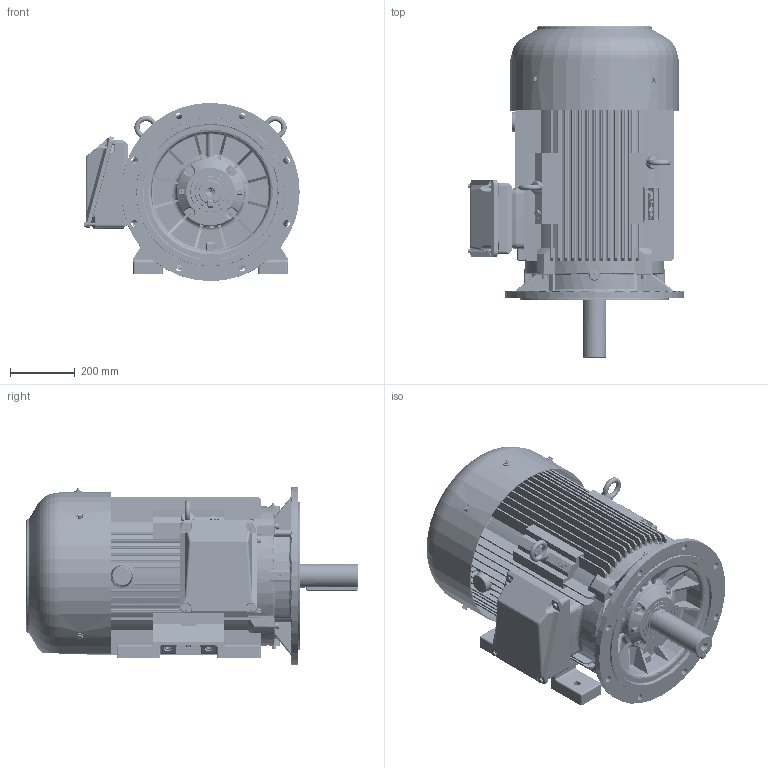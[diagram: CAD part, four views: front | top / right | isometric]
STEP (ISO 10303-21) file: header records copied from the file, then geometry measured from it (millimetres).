
FILE_DESCRIPTION(/* description */ ('Unknown','CAx-IF Rec.Pracs.---Representation and Presentation of Product Manufacturing Information (PMI)---4.0---2014-10-13','CAx-IF Rec.Pracs.---3D Tessellated Geometry---0.4---2014-09-14','2;1'),/* implementation_level */ '2;1');
FILE_NAME(/* name */ 'Silnik SIE400TDL4_6',/* time_stamp */ '2024-07-08T09:28:32+02:00',/* author */ ('Unknown'),/* organization */ ('Unknown'),/* preprocessor_version */ 'ST-DEVELOPER v16.7',/* originating_system */ 'DEX',/* authorisation */ $);
FILE_SCHEMA (('AP242_MANAGED_MODEL_BASED_3D_ENGINEERING_MIM_LF { 1 0 10303 442 20130219 1 4 }'));
Products named in the file (1): Silnik SIE400TDL4_6
Bounding box: 664.17 x 1023.69 x 550 mm (x, y, z)
Volume: 89184945.9 mm3; surface area: 8152090.3 mm2
Topology: 11 solids, 69 shells, 10365 faces, 27072 edges, 16899 vertices
Faces by surface type: plane 5633, cylinder 2252, bspline 956, torus 901, cone 384, sphere 239
Full cylindrical faces by diameter (mm): 1.6 x2, 2.459 x2, 2.5 x4, 3 x17, 3.4 x4, 4.917 x3, 5 x4, 6 x5, 6.2 x14, 6.3 x1, 6.35 x3, 6.4 x2, 6.466 x8, 6.647 x8, 8 x30, 8.376 x4, 8.4 x2, 8.5 x5, 8.917 x1, 9 x12, 9.853 x8, 10 x23, 10.106 x12, 10.5 x5, 11.63 x5, 12 x20, 13 x8, 13.546 x4, 13.835 x4, 14 x9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
Entity records: 421698 total; most frequent: CARTESIAN_POINT 102665, ORIENTED_EDGE 51326, DIRECTION 48611, EDGE_CURVE 25663, VERTEX_POINT 16478, AXIS2_PLACEMENT_3D 16459, LINE 15693, VECTOR 15693
